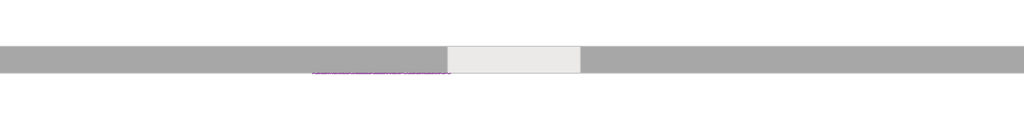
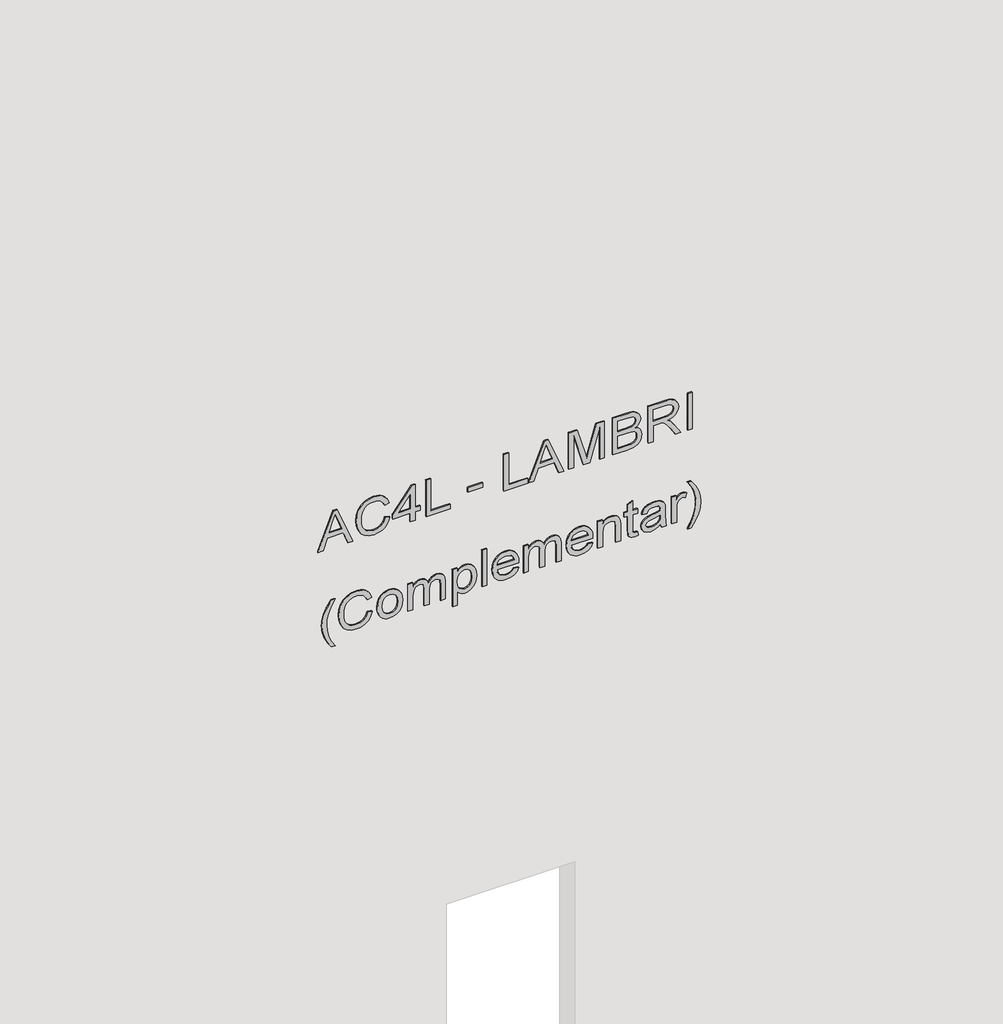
# One storey, part 9 of 11: 1 proxy.
"""IFC4 building model written with IfcOpenShell, lengths in millimetres."""

from ifc_helpers import new_model, si_unit, frame, origin, place, context, project, spatial, polyline, outline, extrude, element, save

model = new_model("IFC4")

# Units and contexts
model_context = context("Model", 3, world=origin())
ifc_project = project(units=[si_unit("LENGTHUNIT", "METRE", prefix="MILLI")], contexts=[model_context])

# Site, building, storey
site = spatial("IfcSite", under=ifc_project)
building = spatial("IfcBuilding", under=site)
storey = spatial("IfcBuildingStorey", under=building, Name="01 - Marelli - Planta Baixa - Painéis Lambri", Elevation=0.0)

# Proxy
placement = place(None, origin())
element("IfcBuildingElementProxy", 1, Name="300mm Arial", ObjectType="300mm Arial", at=placement, inside=storey, context=model_context, shape_type="SweptSolid", body=[
    extrude(outline(polyline([(5965.9244535, 52363.6853623), (5965.9244535, 52403.4901942), (6060.1022443, 52437.923949), (6060.1022443, 52562.0473341), (5965.9244535, 52596.5546653), (5965.9244535, 52636.3594972), (6267.293384, 52516.0620847), (6267.293384, 52483.9827748), (5965.9244535, 52363.6853623)]), holes=[polyline([(6097.7733606, 52451.756312), (6178.3395176, 52481.260448), (6229.6222677, 52500.0224297), (6171.8647944, 52521.1388563), (6097.7733606, 52548.2885475), (6097.7733606, 52451.756312)])]), frame((0.0, 8778.3159498, 0.0), z_axis=(0.0, 1.0, 0.0), x_axis=(0.0, 0.0, 1.0)), (0.0, 0.0, 1.0), 10.0),
    extrude(outline(polyline([(6073.0516905, 52888.5058167), (6040.7884396, 52876.3197256), (6017.5750857, 52856.5368713), (6003.5587816, 52830.3344762), (5998.8866803, 52798.8897626), (6002.3171799, 52771.9148153), (6012.6086787, 52746.9080367), (6029.8347531, 52726.0491276), (6054.0689796, 52711.5177888), (6084.1617268, 52702.9921235), (6118.9633635, 52700.1502351), (6147.3822477, 52702.5506651), (6174.9550032, 52709.7519552), (6199.3455795, 52722.8761454), (6218.2179258, 52743.0452758), (6230.3028494, 52769.6247499), (6234.3311572, 52801.9799714), (6230.6983225, 52830.0493676), (6219.7998184, 52852.8948395), (6200.9550632, 52870.7371163), (6173.4834752, 52883.7969271), (6182.4597959, 52921.4680434), (6220.278065, 52904.8305802), (6235.6003501, 52893.0284659), (6248.5314022, 52878.9040966), (6258.7999084, 52862.7241866), (6266.1345557, 52844.7554504), (6272.0022735, 52803.4514994), (6267.4681279, 52765.5964421), (6253.8656912, 52731.0523227), (6231.526057, 52701.9252658), (6200.7803193, 52680.3213956), (6162.8332915, 52666.939688), (6118.8897871, 52662.4791188), (6077.2271512, 52666.4246532), (6038.3236302, 52678.2612564), (6005.2326447, 52697.6486376), (5981.0076153, 52724.2465058), (5966.1635768, 52758.946975), (5961.215564, 52802.642159), (5962.8503396, 52825.0645666), (5967.7546665, 52845.6843524), (5975.9285445, 52864.5015165), (5987.3719739, 52881.5160587), (6001.9286046, 52896.3922869), (6019.4420868, 52908.7945087), (6039.9124206, 52918.722724), (6063.3396059, 52926.176933), (6073.0516905, 52888.5058167)])), frame((0.0, 8778.3159498, 0.0), z_axis=(0.0, 1.0, 0.0), x_axis=(0.0, 0.0, 1.0)), (0.0, 0.0, 1.0), 10.0),
    extrude(outline(polyline([(5965.9244535, 53086.2791773), (5965.9244535, 53123.9502936), (6036.5577966, 53123.9502936), (6036.5577966, 53161.6214099), (6074.2289129, 53161.6214099), (6074.2289129, 53123.9502936), (6262.5844944, 53123.9502936), (6262.5844944, 53095.6969563), (6074.2289129, 52949.7213807), (6036.5577966, 52949.7213807), (6036.5577966, 53086.2791773), (5965.9244535, 53086.2791773)]), holes=[polyline([(6074.2289129, 53086.2791773), (6074.2289129, 52996.074512), (6190.6267762, 53086.2791773), (6074.2289129, 53086.2791773)])]), frame((0.0, 8778.3159498, 0.0), z_axis=(0.0, 1.0, 0.0), x_axis=(0.0, 0.0, 1.0)), (0.0, 0.0, 1.0), 10.0),
    extrude(outline(polyline([(5965.9244535, 53208.7103053), (5965.9244535, 53397.0658868), (6003.5955698, 53397.0658868), (6003.5955698, 53246.3814216), (6267.293384, 53246.3814216), (6267.293384, 53208.7103053), (5965.9244535, 53208.7103053)])), frame((0.0, 8778.3159498, 0.0), z_axis=(0.0, 1.0, 0.0), x_axis=(0.0, 0.0, 1.0)), (0.0, 0.0, 1.0), 10.0),
    extrude(outline(polyline([(53651.3459219, 8778.3159498), (53533.6236834, 8778.3159498), (53533.6236834, 8788.3159498), (53651.3459219, 8788.3159498), (53651.3459219, 8778.3159498)])), frame((0.0, 0.0, 6055.3933548), z_axis=(0.0, 0.0, 1.0), x_axis=(1.0, 0.0, 0.0)), (0.0, 0.0, 1.0), 37.6711163),
    extrude(outline(polyline([(5965.9244535, 53816.1570557), (5965.9244535, 54004.5126372), (6003.5955698, 54004.5126372), (6003.5955698, 53853.828172), (6267.293384, 53853.828172), (6267.293384, 53816.1570557), (5965.9244535, 53816.1570557)])), frame((0.0, 8778.3159498, 0.0), z_axis=(0.0, 1.0, 0.0), x_axis=(0.0, 0.0, 1.0)), (0.0, 0.0, 1.0), 10.0),
    extrude(outline(polyline([(5965.9244535, 54011.7967007), (5965.9244535, 54051.6015326), (6060.1022443, 54086.0352874), (6060.1022443, 54210.1586725), (5965.9244535, 54244.6660037), (5965.9244535, 54284.4708356), (6267.293384, 54164.1734231), (6267.293384, 54132.0941132), (5965.9244535, 54011.7967007)]), holes=[polyline([(6097.7733606, 54099.8676504), (6178.3395176, 54129.3717864), (6229.6222677, 54148.1337681), (6171.8647944, 54169.2501947), (6097.7733606, 54196.3998859), (6097.7733606, 54099.8676504)])]), frame((0.0, 8778.3159498, 0.0), z_axis=(0.0, 1.0, 0.0), x_axis=(0.0, 0.0, 1.0)), (0.0, 0.0, 1.0), 10.0),
    extrude(outline(polyline([(5965.9244535, 54324.7171258), (5965.9244535, 54362.3882421), (6229.6222677, 54362.3882421), (5965.9244535, 54438.0983567), (5965.9244535, 54489.1603777), (6229.6222677, 54564.8704923), (5965.9244535, 54564.8704923), (5965.9244535, 54602.5416086), (6267.293384, 54602.5416086), (6267.293384, 54537.720801), (6058.5571399, 54477.0938482), (6010.5117514, 54463.6293672), (6054.87832, 54451.1949558), (6267.293384, 54389.5379334), (6267.293384, 54324.7171258), (5965.9244535, 54324.7171258)])), frame((0.0, 8778.3159498, 0.0), z_axis=(0.0, 1.0, 0.0), x_axis=(0.0, 0.0, 1.0)), (0.0, 0.0, 1.0), 10.0),
    extrude(outline(polyline([(5965.9244535, 54668.4660621), (5965.9244535, 54782.583057), (5971.1115897, 54830.885963), (5977.5311305, 54848.9213778), (5986.4154807, 54863.6642488), (5998.6843452, 54875.7031871), (6015.2574291, 54885.6268039), (6034.7459778, 54892.2762709), (6055.7612368, 54894.49276), (6080.9795475, 54891.2462013), (6102.6294029, 54881.5065255), (6119.5887629, 54865.733585), (6130.7355874, 54844.3872322), (6142.4802201, 54862.2571001), (6157.407032, 54874.958226), (6174.4675596, 54882.5457922), (6192.613339, 54885.0749809), (6212.3318139, 54882.0675456), (6231.1673721, 54873.0452396), (6247.1794359, 54858.7162359), (6258.4274279, 54839.7887073), (6265.076895, 54815.0946283), (6267.293384, 54783.4659738), (6267.293384, 54668.4660621), (5965.9244535, 54668.4660621)]), holes=[polyline([(6144.862256, 54706.1371784), (6229.6222677, 54706.1371784), (6229.6222677, 54769.7071872), (6225.6859303, 54818.1204578), (6220.084927, 54830.6100515), (6211.1545915, 54839.8254955), (6199.7134615, 54845.5092723), (6186.5800742, 54847.4038646), (6173.0512139, 54845.3713166), (6162.0423452, 54839.2736725), (6153.6822268, 54829.1661147), (6148.0996175, 54815.1038254), (6144.862256, 54774.9311115), (6144.862256, 54706.1371784)]), polyline([(6003.5955698, 54706.1371784), (6107.1911397, 54706.1371784), (6107.1911397, 54779.7135775), (6105.9311438, 54806.541372), (6102.1511563, 54826.2506499), (6095.262566, 54840.1657863), (6084.6767616, 54849.6111565), (6071.1387042, 54855.0190219), (6055.3933548, 54856.8216436), (6041.8369032, 54855.2857363), (6030.0094971, 54850.6780143), (6013.2708663, 54835.0062413), (6005.0670978, 54811.351429), (6003.5955698, 54783.3923974), (6003.5955698, 54706.1371784)])]), frame((0.0, 8778.3159498, 0.0), z_axis=(0.0, 1.0, 0.0), x_axis=(0.0, 0.0, 1.0)), (0.0, 0.0, 1.0), 10.0),
    extrude(outline(polyline([(5965.9244535, 54946.2905449), (5965.9244535, 54983.9616612), (6097.7733606, 54983.9616612), (6097.7733606, 55029.4318758), (6096.4489854, 55051.2840663), (6089.2752865, 55069.1999195), (6069.7407526, 55089.1023354), (6028.3908163, 55117.429249), (5965.9244535, 55156.6454697), (5965.9244535, 55200.4234271), (6047.5942565, 55150.1707466), (6086.3690188, 55119.636541), (6102.4822501, 55098.2258089), (6112.4702463, 55135.3359051), (6120.4854753, 55149.7177919), (6130.5148582, 55161.3175711), (6155.1261637, 55176.6306591), (6184.8142407, 55181.7350218), (6208.6805851, 55178.6540101), (6230.3948199, 55169.410975), (6247.9060028, 55155.0083948), (6259.1631919, 55136.4487482), (6265.260836, 55111.0556935), (6267.293384, 55076.1528892), (6267.293384, 54946.2905449), (5965.9244535, 54946.2905449)]), holes=[polyline([(6135.4444769, 54983.9616612), (6229.6222677, 54983.9616612), (6229.6222677, 55077.77157), (6226.366512, 55107.5792086), (6216.599245, 55128.1346151), (6201.7919947, 55140.0815829), (6183.4162891, 55144.0639055), (6170.1081579, 55141.9761752), (6157.8484904, 55135.7129842), (6147.7133415, 55125.4306824), (6140.7787658, 55111.2856197), (6136.7780491, 55092.4960468), (6135.4444769, 55068.2802145), (6135.4444769, 54983.9616612)])]), frame((0.0, 8778.3159498, 0.0), z_axis=(0.0, 1.0, 0.0), x_axis=(0.0, 0.0, 1.0)), (0.0, 0.0, 1.0), 10.0),
    extrude(outline(polyline([(55290.0394812, 8778.3159498), (55252.3683649, 8778.3159498), (55252.3683649, 8788.3159498), (55290.0394812, 8788.3159498), (55290.0394812, 8778.3159498)])), frame((0.0, 0.0, 5965.9244535), z_axis=(0.0, 0.0, 1.0), x_axis=(1.0, 0.0, 0.0)), (0.0, 0.0, 1.0), 301.3689304),
    extrude(outline(polyline([(5149.3155348, 52469.4146478), (5149.3155348, 52497.667985), (5197.5540614, 52468.8260366), (5245.8109821, 52448.2246448), (5294.0862969, 52435.8638098), (5342.3800058, 52431.7435314), (5380.2534572, 52434.1163703), (5417.9429677, 52441.2348869), (5475.7740173, 52462.4248898), (5535.4444769, 52497.667985), (5535.4444769, 52469.4146478), (5484.934279, 52434.7233756), (5434.2033518, 52410.4063757), (5389.4137189, 52398.1559053), (5342.600735, 52394.0724151), (5289.2210575, 52399.5354628), (5237.68079, 52415.9246057), (5190.2791949, 52440.2232114), (5149.3155348, 52469.4146478)])), frame((0.0, 8778.3159498, 0.0), z_axis=(0.0, 1.0, 0.0), x_axis=(0.0, 0.0, 1.0)), (0.0, 0.0, 1.0), 10.0),
    extrude(outline(polyline([(5341.2027835, 52751.94802), (5308.9395325, 52739.761929), (5285.7261786, 52719.9790747), (5271.7098746, 52693.7766796), (5267.0377732, 52662.331966), (5270.4682728, 52635.3570187), (5280.7597717, 52610.3502401), (5297.9858461, 52589.491331), (5322.2200725, 52574.9599922), (5352.3128197, 52566.4343269), (5387.1144565, 52563.5924385), (5415.5333406, 52565.9928685), (5443.1060961, 52573.1941586), (5467.4966724, 52586.3183488), (5486.3690188, 52606.4874792), (5498.4539423, 52633.0669533), (5502.4822501, 52665.4221748), (5498.8494154, 52693.491571), (5487.9509113, 52716.3370429), (5469.1061561, 52734.1793197), (5441.6345681, 52747.2391305), (5450.6108888, 52784.9102468), (5488.4291579, 52768.2727836), (5503.751443, 52756.4706693), (5516.6824952, 52742.3463), (5526.9510013, 52726.16639), (5534.2856486, 52708.1976538), (5540.1533665, 52666.8937028), (5535.6192209, 52629.0386455), (5522.0167841, 52594.4945261), (5499.6771499, 52565.3674691), (5468.9314122, 52543.763599), (5430.9843844, 52530.3818914), (5387.0408801, 52525.9213222), (5345.3782441, 52529.8668566), (5306.4747231, 52541.7034598), (5273.3837376, 52561.0908409), (5249.1587083, 52587.6887092), (5234.3146698, 52622.3891784), (5229.3666569, 52666.0843624), (5231.0014325, 52688.50677), (5235.9057594, 52709.1265558), (5244.0796375, 52727.9437199), (5255.5230668, 52744.9582621), (5270.0796975, 52759.8344903), (5287.5931797, 52772.2367121), (5308.0635135, 52782.1649274), (5331.4906988, 52789.6191364), (5341.2027835, 52751.94802)])), frame((0.0, 8778.3159498, 0.0), z_axis=(0.0, 1.0, 0.0), x_axis=(0.0, 0.0, 1.0)), (0.0, 0.0, 1.0), 10.0),
    extrude(outline(polyline([(5344.7344506, 52827.2902527), (5318.4124939, 52828.9986047), (5295.3646869, 52834.1236607), (5275.5910296, 52842.6654208), (5259.0915221, 52854.6238849), (5246.0868936, 52869.350661), (5236.7978732, 52886.1973571), (5231.224461, 52905.1639733), (5229.3666569, 52926.2505094), (5232.7419742, 52952.8391806), (5242.8679261, 52977.2757421), (5259.1007192, 52997.8495427), (5280.7965599, 53012.849931), (5309.767267, 53022.0101927), (5347.8246594, 53025.0636133), (5372.7049786, 53023.3368672), (5394.7388108, 53018.1566288), (5413.9261561, 53009.5228982), (5430.2670145, 52997.4356754), (5443.3199275, 52982.6261259), (5452.6434368, 52965.825415), (5458.2375424, 52947.0335428), (5460.1022443, 52926.2505094), (5458.5709355, 52907.4241483), (5453.9770091, 52890.0877092), (5446.3204651, 52874.2411923), (5435.6013034, 52859.8845974), (5418.830483, 52845.6245716), (5398.095734, 52835.4388389), (5373.3970566, 52829.3273992), (5344.7344506, 52827.2902527)]), holes=[polyline([(5344.808027, 52864.961369), (5378.8830968, 52869.3207706), (5403.1173232, 52882.3989755), (5417.6026768, 52902.0806623), (5422.431128, 52926.2505094), (5417.5842827, 52950.1720361), (5403.0437468, 52969.8445258), (5379.0854319, 52983.0055042), (5345.9852494, 52987.392497), (5311.1468245, 52983.0330953), (5286.535519, 52969.9548904), (5271.9122097, 52950.3099918), (5267.0377732, 52926.2505094), (5271.8846185, 52902.0806623), (5286.4251544, 52882.3989755), (5310.7145631, 52869.3207706), (5344.808027, 52864.961369)])]), frame((0.0, 8778.3159498, 0.0), z_axis=(0.0, 1.0, 0.0), x_axis=(0.0, 0.0, 1.0)), (0.0, 0.0, 1.0), 10.0),
    extrude(outline(polyline([(5234.0755465, 53067.4436191), (5234.0755465, 53105.1147354), (5345.6909438, 53105.1147354), (5371.6082304, 53106.5494752), (5390.6461236, 53110.8536945), (5404.368122, 53118.3584872), (5414.3377241, 53129.3949471), (5420.407777, 53142.7674576), (5422.431128, 53157.2804023), (5419.3961015, 53174.359324), (5410.2910222, 53185.8648334), (5395.0974958, 53192.4039358), (5373.7971282, 53194.5836366), (5234.0755465, 53194.5836366), (5234.0755465, 53232.2547529), (5359.008272, 53232.2547529), (5387.7214617, 53235.94277), (5407.3479662, 53247.006821), (5418.6603375, 53263.6442842), (5422.431128, 53284.0525379), (5420.9596, 53295.6132296), (5416.5450161, 53305.5736346), (5409.7300021, 53313.3175506), (5401.0571841, 53318.2287752), (5369.6032735, 53321.7236542), (5234.0755465, 53321.7236542), (5234.0755465, 53359.3947705), (5385.7900813, 53359.3947705), (5418.7615051, 53355.0813541), (5441.8920855, 53342.1411049), (5455.5497046, 53321.1994223), (5460.1022443, 53292.8817058), (5457.366122, 53273.3563689), (5449.1577549, 53255.7624124), (5435.4771432, 53240.0998365), (5416.3242869, 53226.368641), (5434.7643719, 53218.1648725), (5448.5875379, 53205.6200965), (5457.2235677, 53188.8262834), (5460.1022443, 53167.8754038), (5457.27875, 53148.3224757), (5448.808267, 53131.0136279), (5435.702471, 53116.4455009), (5418.9730372, 53105.1147354), (5455.3933548, 53105.1147354), (5455.3933548, 53067.4436191), (5234.0755465, 53067.4436191)])), frame((0.0, 8778.3159498, 0.0), z_axis=(0.0, 1.0, 0.0), x_axis=(0.0, 0.0, 1.0)), (0.0, 0.0, 1.0), 10.0),
    extrude(outline(polyline([(5149.3155348, 53415.9014449), (5149.3155348, 53453.5725612), (5263.5061061, 53453.5725612), (5249.9956398, 53464.213548), (5239.0419534, 53477.4481027), (5231.785481, 53492.9083436), (5229.3666569, 53510.2263885), (5232.9810975, 53534.6445559), (5243.8244193, 53557.8671069), (5261.4459669, 53577.806311), (5285.3950848, 53592.374438), (5314.2094421, 53601.2863794), (5346.4267078, 53604.2570265), (5376.7217901, 53601.6266702), (5404.4784866, 53593.7356014), (5427.9861461, 53580.6757906), (5445.5341173, 53562.5392082), (5456.4602125, 53540.2639534), (5460.1022443, 53514.7881252), (5457.4994792, 53495.6582615), (5449.6911838, 53479.6186065), (5436.6773583, 53465.8598199), (5418.4580024, 53453.5725612), (5455.3933548, 53453.5725612), (5455.3933548, 53415.9014449), (5149.3155348, 53415.9014449)]), holes=[polyline([(5342.968617, 53453.5725612), (5377.1356573, 53457.9227658), (5402.0872537, 53470.9733796), (5417.3451594, 53489.670982), (5422.431128, 53510.9621525), (5417.6486621, 53532.1705495), (5403.3012642, 53550.1783732), (5379.3521464, 53562.4840259), (5345.7645202, 53566.5859102), (5310.7237602, 53562.3828584), (5286.2412134, 53549.773703), (5271.8386333, 53531.2784357), (5267.0377732, 53509.4170481), (5271.6730864, 53487.9051484), (5285.5790258, 53469.8697336), (5309.1970499, 53457.6468543), (5342.968617, 53453.5725612)])]), frame((0.0, 8778.3159498, 0.0), z_axis=(0.0, 1.0, 0.0), x_axis=(0.0, 0.0, 1.0)), (0.0, 0.0, 1.0), 10.0),
    extrude(outline(polyline([(53684.3081486, 8778.3159498), (53646.6370323, 8778.3159498), (53646.6370323, 8788.3159498), (53684.3081486, 8788.3159498), (53684.3081486, 8778.3159498)])), frame((0.0, 0.0, 5234.0755465), z_axis=(0.0, 0.0, 1.0), x_axis=(1.0, 0.0, 0.0)), (0.0, 0.0, 1.0), 301.3689304),
    extrude(outline(polyline([(5300.0, 53895.7667195), (5285.1191733, 53885.2085062), (5274.9104479, 53871.4865078), (5269.0059419, 53854.6007242), (5267.0377732, 53834.5511555), (5271.2868103, 53807.8889079), (5284.0339214, 53786.0275203), (5304.7640718, 53770.8799791), (5332.9622268, 53764.3592708), (5332.9622268, 53933.658565), (5343.1157698, 53933.8792942), (5369.3687487, 53932.0927672), (5392.5039277, 53926.7331864), (5412.5213067, 53917.8005517), (5429.4208859, 53905.2948631), (5442.8439802, 53889.9748773), (5452.4319047, 53872.5993508), (5458.1846594, 53853.1682837), (5460.1022443, 53831.6816759), (5458.1800609, 53809.4799975), (5452.4135106, 53789.4488228), (5442.8025935, 53771.588152), (5429.3473095, 53755.8979849), (5412.4109422, 53743.1186841), (5392.3567749, 53733.9906121), (5369.1848077, 53728.5137689), (5342.8950406, 53726.6881545), (5317.467497, 53728.4953748), (5295.0427901, 53733.9170357), (5275.62092, 53742.9531372), (5259.2018867, 53755.6036793), (5246.1489737, 53771.3352331), (5236.8254644, 53789.6143697), (5231.2313588, 53810.4410892), (5229.3666569, 53833.8153915), (5233.6892704, 53869.4723538), (5246.6571107, 53898.1579524), (5267.4608375, 53919.3939406), (5295.2911105, 53932.7020718), (5300.0, 53895.7667195)]), holes=[polyline([(5370.6333431, 53764.3592708), (5391.8693312, 53770.5488853), (5408.3412476, 53785.1446035), (5418.9086579, 53806.1414684), (5422.431128, 53831.5345231), (5418.0165441, 53859.1624609), (5404.7727922, 53881.125016), (5390.535759, 53891.1130122), (5370.6333431, 53896.2081778), (5370.6333431, 53764.3592708)])]), frame((0.0, 8778.3159498, 0.0), z_axis=(0.0, 1.0, 0.0), x_axis=(0.0, 0.0, 1.0)), (0.0, 0.0, 1.0), 10.0),
    extrude(outline(polyline([(5234.0755465, 53971.5504105), (5234.0755465, 54009.2215268), (5345.6909438, 54009.2215268), (5371.6082304, 54010.6562665), (5390.6461236, 54014.9604859), (5404.368122, 54022.4652786), (5414.3377241, 54033.5017384), (5420.407777, 54046.874249), (5422.431128, 54061.3871937), (5419.3961015, 54078.4661153), (5410.2910222, 54089.9716247), (5395.0974958, 54096.5107272), (5373.7971282, 54098.690428), (5234.0755465, 54098.690428), (5234.0755465, 54136.3615443), (5359.008272, 54136.3615443), (5387.7214617, 54140.0495613), (5407.3479662, 54151.1136123), (5418.6603375, 54167.7510755), (5422.431128, 54188.1593292), (5420.9596, 54199.7200209), (5416.5450161, 54209.6804259), (5409.7300021, 54217.4243419), (5401.0571841, 54222.3355666), (5369.6032735, 54225.8304455), (5234.0755465, 54225.8304455), (5234.0755465, 54263.5015618), (5385.7900813, 54263.5015618), (5418.7615051, 54259.1881454), (5441.8920855, 54246.2478963), (5455.5497046, 54225.3062137), (5460.1022443, 54196.9884971), (5457.366122, 54177.4631602), (5449.1577549, 54159.8692038), (5435.4771432, 54144.2066278), (5416.3242869, 54130.4754324), (5434.7643719, 54122.2716639), (5448.5875379, 54109.7268878), (5457.2235677, 54092.9330748), (5460.1022443, 54071.9821951), (5457.27875, 54052.4292671), (5448.808267, 54035.1204192), (5435.702471, 54020.5522922), (5418.9730372, 54009.2215268), (5455.3933548, 54009.2215268), (5455.3933548, 53971.5504105), (5234.0755465, 53971.5504105)])), frame((0.0, 8778.3159498, 0.0), z_axis=(0.0, 1.0, 0.0), x_axis=(0.0, 0.0, 1.0)), (0.0, 0.0, 1.0), 10.0),
    extrude(outline(polyline([(5300.0, 54474.9601327), (5285.1191733, 54464.4019194), (5274.9104479, 54450.679921), (5269.0059419, 54433.7941374), (5267.0377732, 54413.7445687), (5271.2868103, 54387.0823211), (5284.0339214, 54365.2209335), (5304.7640718, 54350.0733923), (5332.9622268, 54343.552684), (5332.9622268, 54512.8519782), (5343.1157698, 54513.0727074), (5369.3687487, 54511.2861804), (5392.5039277, 54505.9265996), (5412.5213067, 54496.9939649), (5429.4208859, 54484.4882763), (5442.8439802, 54469.1682905), (5452.4319047, 54451.792764), (5458.1846594, 54432.3616969), (5460.1022443, 54410.8750891), (5458.1800609, 54388.6734107), (5452.4135106, 54368.6422361), (5442.8025935, 54350.7815652), (5429.3473095, 54335.0913981), (5412.4109422, 54322.3120973), (5392.3567749, 54313.1840253), (5369.1848077, 54307.7071821), (5342.8950406, 54305.8815677), (5317.467497, 54307.688788), (5295.0427901, 54313.1104489), (5275.62092, 54322.1465504), (5259.2018867, 54334.7970925), (5246.1489737, 54350.5286463), (5236.8254644, 54368.8077829), (5231.2313588, 54389.6345024), (5229.3666569, 54413.0088047), (5233.6892704, 54448.6657671), (5246.6571107, 54477.3513656), (5267.4608375, 54498.5873538), (5295.2911105, 54511.895485), (5300.0, 54474.9601327)]), holes=[polyline([(5370.6333431, 54343.552684), (5391.8693312, 54349.7422985), (5408.3412476, 54364.3380167), (5418.9086579, 54385.3348816), (5422.431128, 54410.7279363), (5418.0165441, 54438.3558741), (5404.7727922, 54460.3184292), (5390.535759, 54470.3064254), (5370.6333431, 54475.4015911), (5370.6333431, 54343.552684)])]), frame((0.0, 8778.3159498, 0.0), z_axis=(0.0, 1.0, 0.0), x_axis=(0.0, 0.0, 1.0)), (0.0, 0.0, 1.0), 10.0),
    extrude(outline(polyline([(5234.0755465, 54550.7438237), (5234.0755465, 54588.41494), (5351.5034793, 54588.41494), (5386.2131456, 54592.7099623), (5398.5877762, 54598.0787401), (5407.6422718, 54605.5950291), (5418.7339139, 54624.4029961), (5422.431128, 54646.4667188), (5420.7848561, 54660.3634612), (5415.8460403, 54672.3288231), (5408.1481095, 54681.6638287), (5398.2244927, 54687.6695023), (5364.8943839, 54692.0105098), (5234.0755465, 54692.0105098), (5234.0755465, 54729.6816261), (5369.9711555, 54729.6816261), (5406.391473, 54727.6950633), (5434.0929872, 54716.4010861), (5444.6328064, 54706.3027253), (5452.9285454, 54692.1208744), (5458.3088196, 54675.1155292), (5460.1022443, 54656.5466855), (5457.8765582, 54635.5682147), (5451.1995, 54617.2201002), (5440.0710697, 54601.5023419), (5424.4912672, 54588.41494), (5455.3933548, 54588.41494), (5455.3933548, 54550.7438237), (5234.0755465, 54550.7438237)])), frame((0.0, 8778.3159498, 0.0), z_axis=(0.0, 1.0, 0.0), x_axis=(0.0, 0.0, 1.0)), (0.0, 0.0, 1.0), 10.0),
    extrude(outline(polyline([(5265.4926689, 54861.5305332), (5267.0377732, 54845.1229962), (5269.576159, 54832.2839146), (5276.4555523, 54825.8459797), (5295.8797217, 54823.8594169), (5417.7222385, 54823.8594169), (5417.7222385, 54861.5305332), (5455.3933548, 54861.5305332), (5455.3933548, 54823.8594169), (5531.3241986, 54823.8594169), (5509.1777025, 54786.1883006), (5455.3933548, 54786.1883006), (5455.3933548, 54757.9349633), (5417.7222385, 54757.9349633), (5417.7222385, 54786.1883006), (5294.7760757, 54786.1883006), (5267.7919313, 54787.3287348), (5252.0281878, 54790.7500373), (5242.849532, 54796.967243), (5235.6206508, 54806.4953867), (5230.9301554, 54819.9782618), (5229.3666569, 54838.0596619), (5232.9719005, 54866.2394227), (5265.4926689, 54861.5305332)])), frame((0.0, 8778.3159498, 0.0), z_axis=(0.0, 1.0, 0.0), x_axis=(0.0, 0.0, 1.0)), (0.0, 0.0, 1.0), 10.0),
    extrude(outline(polyline([(5262.3288837, 55040.4683356), (5234.0755465, 55049.8861147), (5234.0755465, 55087.557231), (5265.7501862, 55080.0524383), (5331.1963932, 55078.1394519), (5378.0645594, 55078.1394519), (5411.0267861, 55076.300042), (5425.1442577, 55071.7566993), (5436.5945848, 55064.7485473), (5445.856014, 55054.181137), (5453.406792, 55038.9600195), (5458.4283812, 55018.772495), (5460.1022443, 54993.3058639), (5458.207652, 54966.7539809), (5452.5238752, 54943.6050063), (5443.3452194, 54924.6774777), (5430.9659903, 54910.7899323), (5414.7791825, 54901.0318624), (5394.1777908, 54894.49276), (5389.4689012, 54932.1638763), (5405.1314772, 54939.6502749), (5415.1838527, 54950.3372468), (5420.6193092, 54966.0090198), (5422.431128, 54988.4498215), (5419.7088012, 55012.693245), (5411.5418209, 55030.0940634), (5400.5421493, 55037.8747676), (5383.7299421, 55040.4683356), (5375.3422326, 55040.2476064), (5368.3524747, 55013.429009), (5362.3927864, 54974.9117641), (5356.7274037, 54942.3174193), (5344.3665686, 54915.9402803), (5334.8752131, 54905.3360818), (5322.7351073, 54896.9943575), (5308.5532564, 54891.5864922), (5292.9366657, 54889.7838704), (5267.6079903, 54894.5571393), (5247.2457219, 54908.876946), (5233.8364232, 54932.0994969), (5229.3666569, 54963.5809987), (5231.224461, 54984.4491048), (5236.7978732, 55003.9376535), (5246.896234, 55022.469709), (5262.3288837, 55040.4683356)]), holes=[polyline([(5337.6711163, 55040.4683356), (5327.0025384, 55040.2476064), (5310.0799667, 55038.7576844), (5297.8662844, 55034.2879181), (5286.0112871, 55024.2079515), (5276.0508821, 55009.7134008), (5269.2910505, 54991.8343359), (5267.0377732, 54971.6008261), (5269.0795183, 54952.5169476), (5275.2047535, 54938.6753876), (5284.3834093, 54930.2600869), (5295.5854161, 54927.4549867), (5310.0799667, 54932.6053347), (5320.0127805, 54947.2838263), (5326.1196217, 54979.69423), (5337.6711163, 55040.4683356)])]), frame((0.0, 8778.3159498, 0.0), z_axis=(0.0, 1.0, 0.0), x_axis=(0.0, 0.0, 1.0)), (0.0, 0.0, 1.0), 10.0),
    extrude(outline(polyline([(5234.0755465, 55129.9372369), (5234.0755465, 55167.6083532), (5350.3998333, 55167.6083532), (5373.3556698, 55169.1350635), (5394.39852, 55173.7151943), (5406.1339556, 55179.1690449), (5414.9999117, 55187.2900399), (5420.5733239, 55197.3424154), (5422.431128, 55208.5904074), (5420.4997475, 55221.8341593), (5414.7056061, 55235.0779111), (5448.4771733, 55247.6594753), (5457.1959765, 55228.603188), (5460.1022443, 55209.8412062), (5458.2812284, 55197.5539476), (5452.8181808, 55186.2967585), (5441.6345681, 55175.0763577), (5422.6518572, 55162.8994636), (5455.3933548, 55162.8994636), (5455.3933548, 55129.9372369), (5234.0755465, 55129.9372369)])), frame((0.0, 8778.3159498, 0.0), z_axis=(0.0, 1.0, 0.0), x_axis=(0.0, 0.0, 1.0)), (0.0, 0.0, 1.0), 10.0),
    extrude(outline(polyline([(5149.3155348, 55280.6217021), (5190.2791949, 55309.6751827), (5237.68079, 55334.0013796), (5289.2210575, 55350.4732959), (5342.600735, 55355.9639347), (5389.4137189, 55351.8804446), (5434.2033518, 55339.6299741), (5484.934279, 55315.3129742), (5535.4444769, 55280.6217021), (5535.4444769, 55252.3683649), (5475.1854061, 55287.8321892), (5446.8400984, 55299.8067481), (5417.2807801, 55308.8014629), (5379.9775458, 55315.9199795), (5342.3800058, 55318.2928184), (5294.0862969, 55314.1725401), (5245.8109821, 55301.811705), (5197.5540614, 55281.2103133), (5149.3155348, 55252.3683649), (5149.3155348, 55280.6217021)])), frame((0.0, 8778.3159498, 0.0), z_axis=(0.0, 1.0, 0.0), x_axis=(0.0, 0.0, 1.0)), (0.0, 0.0, 1.0), 10.0),
])

save(model, "model.ifc")
